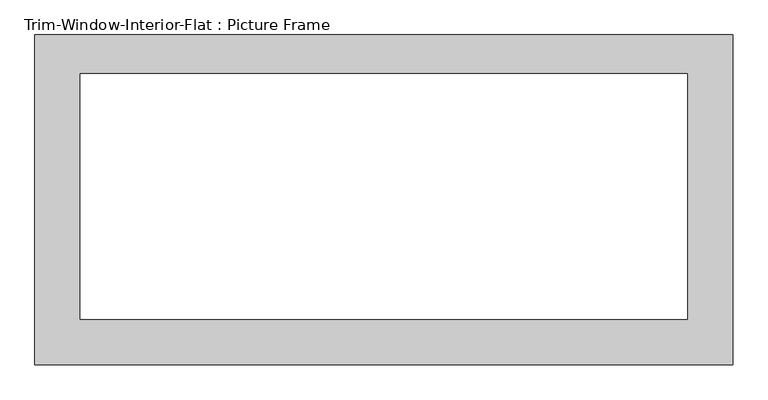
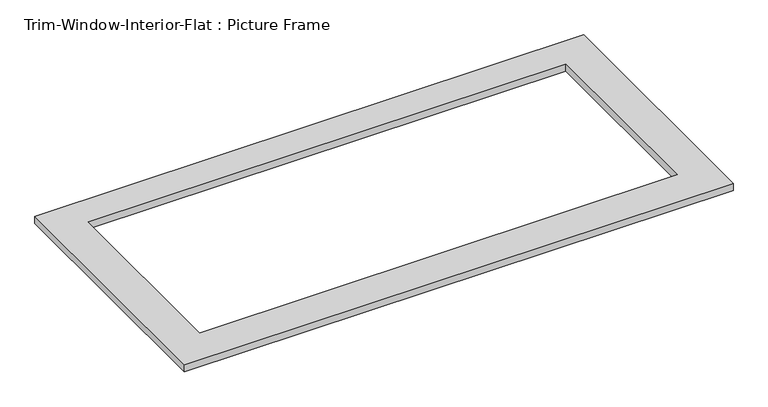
"""IFC4 building model written with IfcOpenShell, lengths in millimetres: proxy geometry, Trim-Window-Interior-Flat : Picture Frame."""

from ifc_helpers import new_model, si_unit, origin, origin_with_axes, place, context, project, spatial, polyline, outline, extrude, source, transform, mapped, element, save


def trim_window_interior_flat_picture_frame_488bd46e(model_context):
    return source(origin(), model_context, "Body", "SweptSolid", [
        extrude(outline(polyline([(685.8, 63.5), (685.8, -584.2), (-685.8, -584.2), (-685.8, 63.5), (685.8, 63.5)]), holes=[polyline([(596.9, -12.7), (-596.9, -12.7), (-596.9, -495.3), (596.9, -495.3), (596.9, -12.7)])]), origin_with_axes(), (0.0, 0.0, 1.0), 19.05),
    ])


if __name__ == "__main__":
    model = new_model("IFC4")
    model_context = context("Model", 3, world=origin())
    ifc_project = project(units=[si_unit("LENGTHUNIT", "METRE", prefix="MILLI")], contexts=[model_context])
    site = spatial("IfcSite", under=ifc_project)
    building = spatial("IfcBuilding", under=site)
    placement = place(None, origin())
    trim_window_interior_flat_picture_frame_shape = trim_window_interior_flat_picture_frame_488bd46e(model_context)
    element("IfcBuildingElementProxy", 1, Name="Trim-Window-Interior-Flat : Picture Frame", ObjectType="Trim-Window-Interior-Flat : Picture Frame", at=placement, inside=building, context=model_context, shape_type="MappedRepresentation", body=[
        mapped(trim_window_interior_flat_picture_frame_shape, transform((0.0, 0.0, 0.0), x_axis=(1.0, 0.0, 0.0), y_axis=(0.0, 1.0, 0.0), z_axis=(0.0, 0.0, 1.0))),
    ])
    save(model, "model.ifc")
